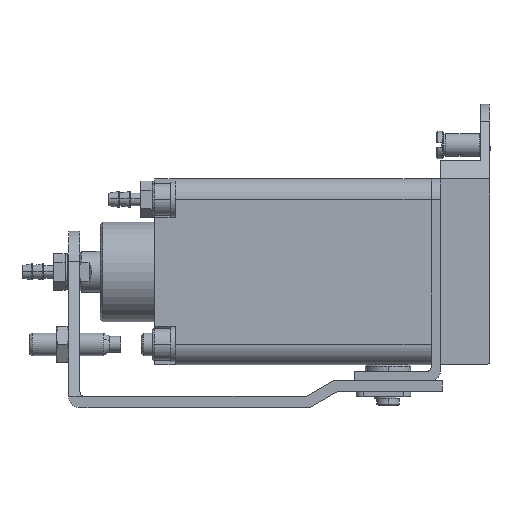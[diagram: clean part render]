
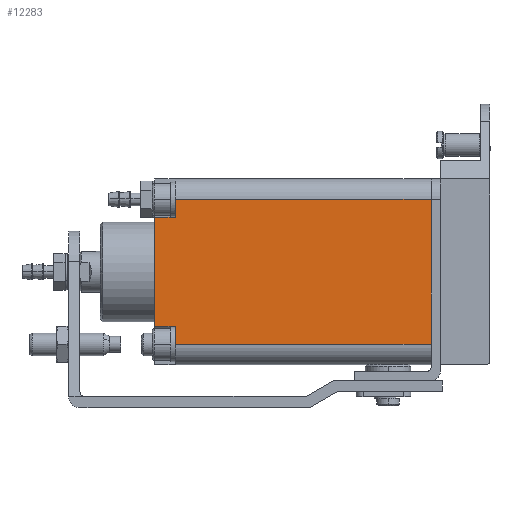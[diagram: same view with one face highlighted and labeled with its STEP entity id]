
A CAD part, left-side view. The second image highlights one B-rep face of the part: STEP entity #12283.
In plain terms, the highlighted planar face has unit normal (-1, 0, 0).
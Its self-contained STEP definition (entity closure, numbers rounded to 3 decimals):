
#338 = ORIENTED_EDGE ( 'NONE', *, *, #15550, .T. ) ;
#355 = DIRECTION ( 'NONE',  ( 0., 0., 1. ) ) ;
#1020 = DIRECTION ( 'NONE',  ( 0., 0., -1. ) ) ;
#1269 = CARTESIAN_POINT ( 'NONE',  ( -16.5, 61., -12. ) ) ;
#1717 = CARTESIAN_POINT ( 'NONE',  ( -16.5, 56.5, -16. ) ) ;
#2041 = CARTESIAN_POINT ( 'NONE',  ( -16.5, 0., 16. ) ) ;
#2216 = DIRECTION ( 'NONE',  ( 0., -1., 0. ) ) ;
#2965 = LINE ( 'NONE', #16915, #27408 ) ;
#3055 = FACE_OUTER_BOUND ( 'NONE', #35612, .T. ) ;
#4415 = EDGE_CURVE ( 'NONE', #37923, #33788, #37292, .T. ) ;
#6207 = LINE ( 'NONE', #13935, #13727 ) ;
#8218 = VERTEX_POINT ( 'NONE', #2041 ) ;
#8609 = DIRECTION ( 'NONE',  ( 0., -1., 0. ) ) ;
#8760 = ORIENTED_EDGE ( 'NONE', *, *, #39756, .F. ) ;
#9618 = EDGE_CURVE ( 'NONE', #19998, #8218, #19599, .T. ) ;
#9806 = VECTOR ( 'NONE', #2216, 1000. ) ;
#11095 = VECTOR ( 'NONE', #355, 1000. ) ;
#11513 = ORIENTED_EDGE ( 'NONE', *, *, #30865, .T. ) ;
#12207 = DIRECTION ( 'NONE',  ( -1., 0., 0. ) ) ;
#12283 = ADVANCED_FACE ( 'NONE', ( #3055 ), #18485, .T. ) ;
#12325 = VERTEX_POINT ( 'NONE', #15290 ) ;
#12383 = CARTESIAN_POINT ( 'NONE',  ( -16.5, 56.5, -12. ) ) ;
#12717 = CARTESIAN_POINT ( 'NONE',  ( -16.5, 61., 12. ) ) ;
#13727 = VECTOR ( 'NONE', #14224, 1000. ) ;
#13935 = CARTESIAN_POINT ( 'NONE',  ( -16.5, 55.75, 12. ) ) ;
#14224 = DIRECTION ( 'NONE',  ( 0., 1., 0. ) ) ;
#15290 = CARTESIAN_POINT ( 'NONE',  ( -16.5, 56.5, 16. ) ) ;
#15451 = ORIENTED_EDGE ( 'NONE', *, *, #37256, .T. ) ;
#15550 = EDGE_CURVE ( 'NONE', #12325, #22018, #2965, .T. ) ;
#15878 = LINE ( 'NONE', #24362, #31837 ) ;
#16796 = EDGE_CURVE ( 'NONE', #33788, #30475, #18321, .T. ) ;
#16915 = CARTESIAN_POINT ( 'NONE',  ( -16.5, 56.5, 0. ) ) ;
#18101 = CARTESIAN_POINT ( 'NONE',  ( -16.5, 55.75, -12. ) ) ;
#18111 = CARTESIAN_POINT ( 'NONE',  ( -16.5, 25.25, 16. ) ) ;
#18321 = LINE ( 'NONE', #18101, #9806 ) ;
#18474 = VERTEX_POINT ( 'NONE', #1717 ) ;
#18485 = PLANE ( 'NONE',  #34741 ) ;
#19169 = LINE ( 'NONE', #40257, #35150 ) ;
#19599 = LINE ( 'NONE', #38578, #11095 ) ;
#19998 = VERTEX_POINT ( 'NONE', #31354 ) ;
#21167 = DIRECTION ( 'NONE',  ( 0., -1., 0. ) ) ;
#22018 = VERTEX_POINT ( 'NONE', #25239 ) ;
#23447 = ORIENTED_EDGE ( 'NONE', *, *, #24852, .T. ) ;
#24362 = CARTESIAN_POINT ( 'NONE',  ( -16.5, 56.5, 0. ) ) ;
#24441 = LINE ( 'NONE', #18111, #40431 ) ;
#24852 = EDGE_CURVE ( 'NONE', #30475, #18474, #15878, .T. ) ;
#25239 = CARTESIAN_POINT ( 'NONE',  ( -16.5, 56.5, 12. ) ) ;
#26387 = DIRECTION ( 'NONE',  ( 0., 0., -1. ) ) ;
#27408 = VECTOR ( 'NONE', #26387, 1000. ) ;
#28805 = VECTOR ( 'NONE', #1020, 1000. ) ;
#30475 = VERTEX_POINT ( 'NONE', #12383 ) ;
#30865 = EDGE_CURVE ( 'NONE', #18474, #19998, #19169, .T. ) ;
#31316 = CARTESIAN_POINT ( 'NONE',  ( -16.5, -5.05, -19.2 ) ) ;
#31354 = CARTESIAN_POINT ( 'NONE',  ( -16.5, 0., -16. ) ) ;
#31837 = VECTOR ( 'NONE', #37069, 1000. ) ;
#32056 = ORIENTED_EDGE ( 'NONE', *, *, #16796, .T. ) ;
#32812 = CARTESIAN_POINT ( 'NONE',  ( -16.5, 61., 0. ) ) ;
#33788 = VERTEX_POINT ( 'NONE', #1269 ) ;
#34535 = DIRECTION ( 'NONE',  ( 0., 0., 1. ) ) ;
#34741 = AXIS2_PLACEMENT_3D ( 'NONE', #31316, #12207, #34535 ) ;
#35150 = VECTOR ( 'NONE', #21167, 1000. ) ;
#35446 = ORIENTED_EDGE ( 'NONE', *, *, #9618, .T. ) ;
#35612 = EDGE_LOOP ( 'NONE', ( #35446, #8760, #338, #15451, #39980, #32056, #23447, #11513 ) ) ;
#37069 = DIRECTION ( 'NONE',  ( 0., 0., -1. ) ) ;
#37256 = EDGE_CURVE ( 'NONE', #22018, #37923, #6207, .T. ) ;
#37292 = LINE ( 'NONE', #32812, #28805 ) ;
#37923 = VERTEX_POINT ( 'NONE', #12717 ) ;
#38578 = CARTESIAN_POINT ( 'NONE',  ( -16.5, 0., 0. ) ) ;
#39756 = EDGE_CURVE ( 'NONE', #12325, #8218, #24441, .T. ) ;
#39980 = ORIENTED_EDGE ( 'NONE', *, *, #4415, .T. ) ;
#40257 = CARTESIAN_POINT ( 'NONE',  ( -16.5, 25.25, -16. ) ) ;
#40431 = VECTOR ( 'NONE', #8609, 1000. ) ;
